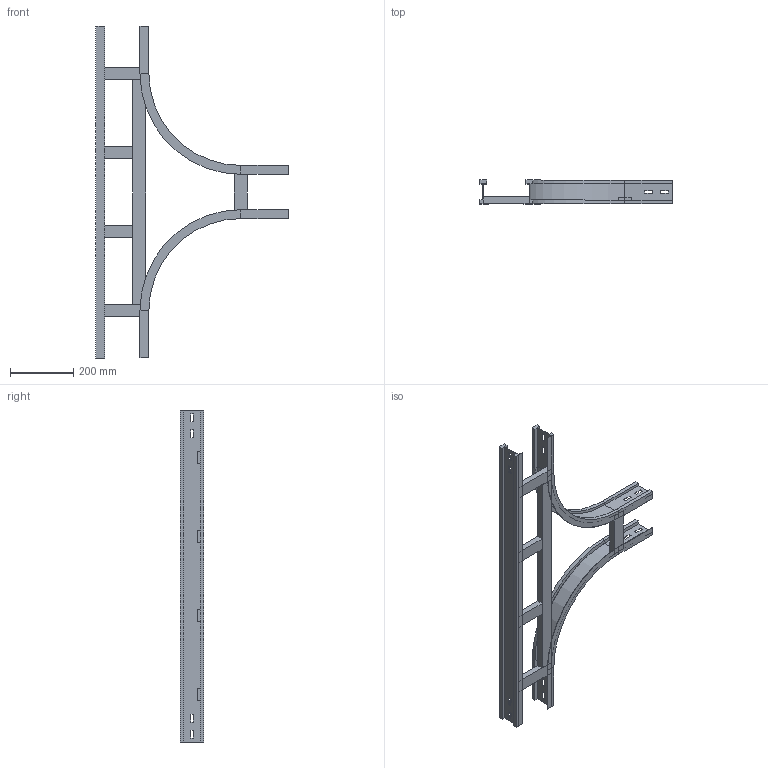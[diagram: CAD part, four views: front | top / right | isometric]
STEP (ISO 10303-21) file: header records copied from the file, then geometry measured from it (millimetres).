
FILE_DESCRIPTION (( 'STEP AP214' ), '1' );
FILE_NAME ('15S3C150.step', '2025-02-21T16:14:36', ( '' ), ( '' ), 'SwSTEP 2.0', 'SolidWorks 2023', '' );
FILE_SCHEMA (( 'AUTOMOTIVE_DESIGN' ));
Length unit declared in the file: millimetre
Products named in the file (6): LONGH.INTERNO 90°_H75_R300; TRAVERSINO_INTERMEDIO_R300+150; LONGH.RETT_H75_R300+150; 15S3C150; TRAVERSINO_150; TRAVERSINO_LONG._R300+150
Assembly tree (9 placements, depth 2):
  15S3C150
    LONGH.INTERNO 90°_H75_R300  x2
    LONGH.RETT_H75_R300+150
    TRAVERSINO_150  x3
    TRAVERSINO_LONG._R300+150
    TRAVERSINO_INTERMEDIO_R300+150  x2
Bounding box: 609 x 75 x 1050 mm (x, y, z)
Volume: 2379028.3 mm3; surface area: 815165.9 mm2
Topology: 9 solids, 9 shells, 174 faces, 420 edges, 264 vertices
Faces by surface type: plane 162, cylinder 12
Entity records: 3187 total; most frequent: CARTESIAN_POINT 526, ORIENTED_EDGE 504, DIRECTION 492, EDGE_CURVE 252, VECTOR 240, LINE 240, VERTEX_POINT 160, AXIS2_PLACEMENT_3D 126
